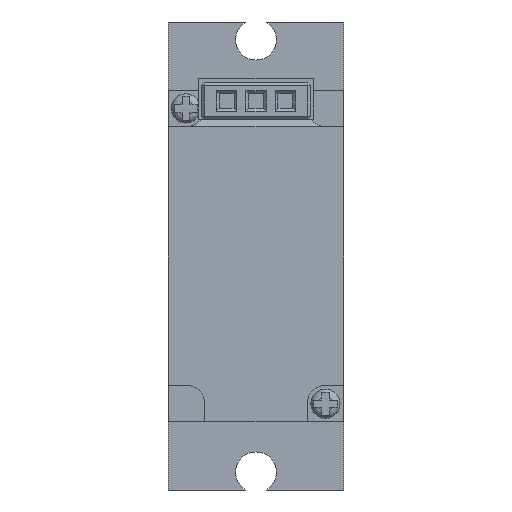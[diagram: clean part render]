
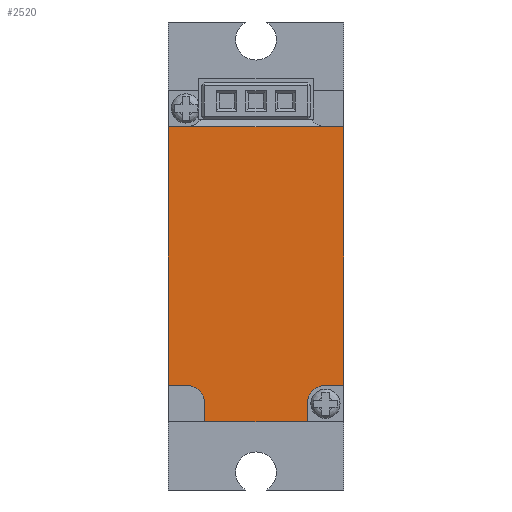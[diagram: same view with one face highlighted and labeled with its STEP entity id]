
A CAD part, front view. The second image highlights one B-rep face of the part: STEP entity #2520.
In plain terms, the highlighted planar face has unit normal (0, -1, 0).
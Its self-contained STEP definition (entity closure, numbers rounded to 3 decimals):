
#177=PLANE('',#2746);
#323=FACE_OUTER_BOUND('',#482,.T.);
#482=EDGE_LOOP('',(#2129,#2130,#2131,#2132,#2133,#2134,#2135,#2136,#2137,
#2138,#2139,#2140));
#694=LINE('',#3893,#971);
#715=LINE('',#3940,#992);
#716=LINE('',#3942,#993);
#718=LINE('',#3947,#995);
#721=LINE('',#3953,#998);
#726=LINE('',#3963,#1003);
#727=LINE('',#3967,#1004);
#728=LINE('',#3969,#1005);
#729=LINE('',#3971,#1006);
#730=LINE('',#3974,#1007);
#971=VECTOR('',#3213,10.);
#992=VECTOR('',#3252,10.);
#993=VECTOR('',#3255,10.);
#995=VECTOR('',#3261,10.);
#998=VECTOR('',#3268,10.);
#1003=VECTOR('',#3275,10.);
#1004=VECTOR('',#3278,10.);
#1005=VECTOR('',#3279,10.);
#1006=VECTOR('',#3280,10.);
#1007=VECTOR('',#3283,10.);
#1112=CIRCLE('',#2747,1.25);
#1113=CIRCLE('',#2748,1.25);
#1245=VERTEX_POINT('',#3890);
#1246=VERTEX_POINT('',#3892);
#1259=VERTEX_POINT('',#3930);
#1263=VERTEX_POINT('',#3938);
#1264=VERTEX_POINT('',#3946);
#1265=VERTEX_POINT('',#3952);
#1269=VERTEX_POINT('',#3962);
#1270=VERTEX_POINT('',#3964);
#1271=VERTEX_POINT('',#3966);
#1272=VERTEX_POINT('',#3968);
#1273=VERTEX_POINT('',#3970);
#1274=VERTEX_POINT('',#3972);
#1538=EDGE_CURVE('',#1245,#1246,#694,.T.);
#1562=EDGE_CURVE('',#1259,#1263,#715,.T.);
#1563=EDGE_CURVE('',#1245,#1259,#716,.T.);
#1565=EDGE_CURVE('',#1264,#1246,#718,.T.);
#1568=EDGE_CURVE('',#1265,#1264,#721,.T.);
#1573=EDGE_CURVE('',#1263,#1269,#726,.T.);
#1574=EDGE_CURVE('',#1269,#1270,#1112,.T.);
#1575=EDGE_CURVE('',#1270,#1271,#727,.T.);
#1576=EDGE_CURVE('',#1271,#1272,#728,.T.);
#1577=EDGE_CURVE('',#1272,#1273,#729,.T.);
#1578=EDGE_CURVE('',#1273,#1274,#1113,.T.);
#1579=EDGE_CURVE('',#1274,#1265,#730,.T.);
#2129=ORIENTED_EDGE('',*,*,#1538,.F.);
#2130=ORIENTED_EDGE('',*,*,#1563,.T.);
#2131=ORIENTED_EDGE('',*,*,#1562,.T.);
#2132=ORIENTED_EDGE('',*,*,#1573,.T.);
#2133=ORIENTED_EDGE('',*,*,#1574,.T.);
#2134=ORIENTED_EDGE('',*,*,#1575,.T.);
#2135=ORIENTED_EDGE('',*,*,#1576,.T.);
#2136=ORIENTED_EDGE('',*,*,#1577,.T.);
#2137=ORIENTED_EDGE('',*,*,#1578,.T.);
#2138=ORIENTED_EDGE('',*,*,#1579,.T.);
#2139=ORIENTED_EDGE('',*,*,#1568,.T.);
#2140=ORIENTED_EDGE('',*,*,#1565,.T.);
#2520=ADVANCED_FACE('',(#323),#177,.T.);
#2746=AXIS2_PLACEMENT_3D('',#3961,#3273,#3274);
#2747=AXIS2_PLACEMENT_3D('',#3965,#3276,#3277);
#2748=AXIS2_PLACEMENT_3D('',#3973,#3281,#3282);
#3213=DIRECTION('',(1.,0.,0.));
#3252=DIRECTION('',(0.,0.,-1.));
#3255=DIRECTION('',(-1.,0.,0.));
#3261=DIRECTION('',(-1.,0.,0.));
#3268=DIRECTION('',(0.,0.,1.));
#3273=DIRECTION('center_axis',(0.,-1.,0.));
#3274=DIRECTION('ref_axis',(0.,0.,-1.));
#3275=DIRECTION('',(1.,0.,0.));
#3276=DIRECTION('center_axis',(0.,1.,0.));
#3277=DIRECTION('ref_axis',(-1.,0.,0.));
#3278=DIRECTION('',(0.,0.,-1.));
#3279=DIRECTION('',(1.,0.,0.));
#3280=DIRECTION('',(0.,0.,1.));
#3281=DIRECTION('center_axis',(0.,1.,0.));
#3282=DIRECTION('ref_axis',(1.,0.,0.));
#3283=DIRECTION('',(1.,0.,0.));
#3890=CARTESIAN_POINT('',(-4.75,-23.3,3.5));
#3892=CARTESIAN_POINT('',(4.75,-23.3,3.5));
#3893=CARTESIAN_POINT('',(3.,-23.3,3.5));
#3930=CARTESIAN_POINT('',(-6.,-23.3,3.5));
#3938=CARTESIAN_POINT('',(-6.,-23.3,-14.2));
#3940=CARTESIAN_POINT('',(-6.,-23.3,0.325));
#3942=CARTESIAN_POINT('',(-2.375,-23.3,3.5));
#3946=CARTESIAN_POINT('',(6.,-23.3,3.5));
#3947=CARTESIAN_POINT('',(2.375,-23.3,3.5));
#3952=CARTESIAN_POINT('',(6.,-23.3,-14.2));
#3953=CARTESIAN_POINT('',(6.,-23.3,-11.025));
#3961=CARTESIAN_POINT('Origin',(0.,-23.3,-5.35));
#3962=CARTESIAN_POINT('',(-4.75,-23.3,-14.2));
#3963=CARTESIAN_POINT('',(-2.375,-23.3,-14.2));
#3964=CARTESIAN_POINT('',(-3.5,-23.3,-15.45));
#3965=CARTESIAN_POINT('Origin',(-4.75,-23.3,-15.45));
#3966=CARTESIAN_POINT('',(-3.5,-23.3,-16.7));
#3967=CARTESIAN_POINT('',(-3.5,-23.3,-11.025));
#3968=CARTESIAN_POINT('',(3.5,-23.3,-16.7));
#3969=CARTESIAN_POINT('',(-3.,-23.3,-16.7));
#3970=CARTESIAN_POINT('',(3.5,-23.3,-15.45));
#3971=CARTESIAN_POINT('',(3.5,-23.3,-11.025));
#3972=CARTESIAN_POINT('',(4.75,-23.3,-14.2));
#3973=CARTESIAN_POINT('Origin',(4.75,-23.3,-15.45));
#3974=CARTESIAN_POINT('',(2.375,-23.3,-14.2));
